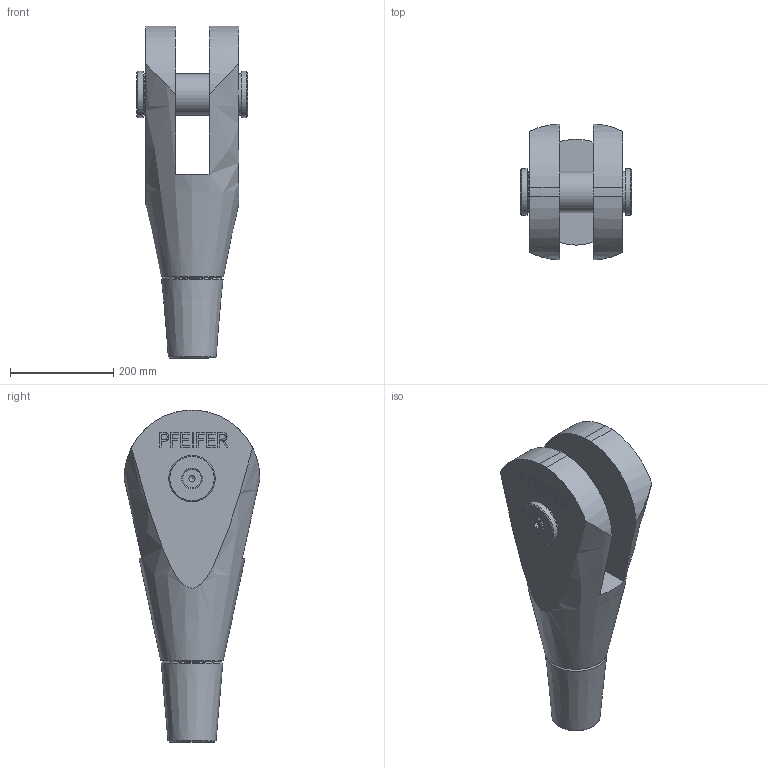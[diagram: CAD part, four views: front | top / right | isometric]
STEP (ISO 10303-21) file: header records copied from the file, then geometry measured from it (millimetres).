
FILE_DESCRIPTION(/* description */ (''),/* implementation_level */ '2;1');
FILE_NAME(/* name */ 'C:\Vault_WS\Designs\520-080-GAK.stp',/* time_stamp */ '2020-06-25T08:05:44+02:00',/* author */ ('schwarz'),/* organization */ (''),/* preprocessor_version */ 'ST-DEVELOPER v16.1',/* originating_system */ 'Autodesk Inventor 2016',/* authorisation */ '');
FILE_SCHEMA (('AUTOMOTIVE_DESIGN { 1 0 10303 214 3 1 1 }'));
Length unit declared in the file: centimetre
Products named in the file (1): 520-080-GAK-KMU-Kunde
Bounding box: 216 x 263.44 x 643.97 mm (x, y, z)
Volume: 12188941.7 mm3; surface area: 607190.9 mm2
Topology: 2 solids, 4 shells, 186 faces, 483 edges, 320 vertices
Faces by surface type: plane 136, bspline 21, cylinder 16, cone 13
Full cylindrical faces by diameter (mm): 17.294 x1, 20 x1, 22 x1, 36.05 x1, 80 x1, 83 x3, 90 x2
Entity records: 5777 total; most frequent: CARTESIAN_POINT 1272, ORIENTED_EDGE 900, DIRECTION 768, EDGE_CURVE 450, LINE 348, VECTOR 348, VERTEX_POINT 310, EDGE_LOOP 230
